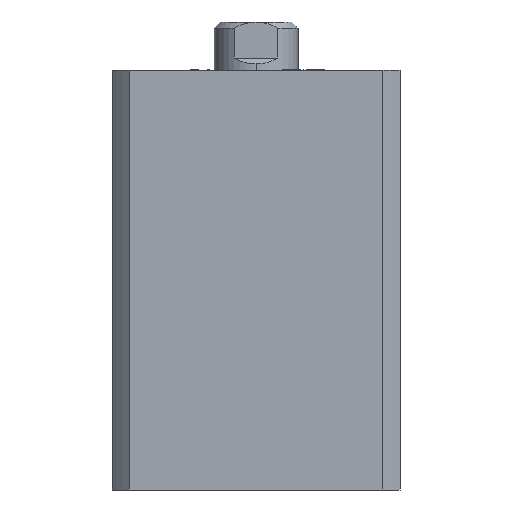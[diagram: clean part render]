
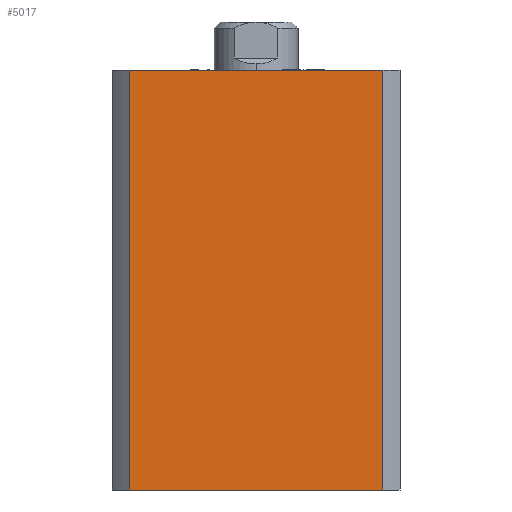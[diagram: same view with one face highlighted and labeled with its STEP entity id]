
A CAD part, left-side view. The second image highlights one B-rep face of the part: STEP entity #5017.
In plain terms, the highlighted planar face has unit normal (-1, 0, 0).
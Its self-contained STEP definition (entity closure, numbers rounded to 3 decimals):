
#310 = EDGE_LOOP ( 'NONE', ( #5061, #5062, #5063, #5064 ) ) ;
#516 = VERTEX_POINT ( 'NONE', #4410 ) ;
#535 = VERTEX_POINT ( 'NONE', #4363 ) ;
#539 = VERTEX_POINT ( 'NONE', #4357 ) ;
#631 = VERTEX_POINT ( 'NONE', #1994 ) ;
#672 = VECTOR ( 'NONE', #1965, 1000. ) ;
#673 = LINE ( 'NONE', #2000, #672 ) ;
#675 = VECTOR ( 'NONE', #2007, 1000. ) ;
#677 = LINE ( 'NONE', #2011, #675 ) ;
#1320 = CARTESIAN_POINT ( 'NONE',  ( -24., 0., 70. ) ) ;
#1325 = PLANE ( 'NONE',  #4808 ) ;
#1328 = DIRECTION ( 'NONE',  ( 1., 0., 0. ) ) ;
#1329 = DIRECTION ( 'NONE',  ( 0., 0., -1. ) ) ;
#1515 = EDGE_CURVE ( 'NONE', #539, #535, #673, .T. ) ;
#1516 = EDGE_CURVE ( 'NONE', #631, #516, #677, .T. ) ;
#1651 = FACE_OUTER_BOUND ( 'NONE', #310, .T. ) ;
#1965 = DIRECTION ( 'NONE',  ( 0., 0., -1. ) ) ;
#1994 = CARTESIAN_POINT ( 'NONE',  ( -24., 21.166, 70. ) ) ;
#2000 = CARTESIAN_POINT ( 'NONE',  ( -24., -21.166, 70. ) ) ;
#2007 = DIRECTION ( 'NONE',  ( 0., 0., -1. ) ) ;
#2011 = CARTESIAN_POINT ( 'NONE',  ( -24., 21.166, 70. ) ) ;
#2147 = EDGE_CURVE ( 'NONE', #631, #539, #2994, .T. ) ;
#2176 = EDGE_CURVE ( 'NONE', #516, #535, #3028, .T. ) ;
#2994 = LINE ( 'NONE', #4029, #2996 ) ;
#2996 = VECTOR ( 'NONE', #4030, 1000. ) ;
#3028 = LINE ( 'NONE', #4177, #3030 ) ;
#3030 = VECTOR ( 'NONE', #4178, 1000. ) ;
#4029 = CARTESIAN_POINT ( 'NONE',  ( -24., 0., 70. ) ) ;
#4030 = DIRECTION ( 'NONE',  ( 0., -1., 0. ) ) ;
#4177 = CARTESIAN_POINT ( 'NONE',  ( -24., 0., 0. ) ) ;
#4178 = DIRECTION ( 'NONE',  ( 0., -1., 0. ) ) ;
#4357 = CARTESIAN_POINT ( 'NONE',  ( -24., -21.166, 70. ) ) ;
#4363 = CARTESIAN_POINT ( 'NONE',  ( -24., -21.166, 0. ) ) ;
#4410 = CARTESIAN_POINT ( 'NONE',  ( -24., 21.166, 0. ) ) ;
#4808 = AXIS2_PLACEMENT_3D ( 'NONE', #1320, #1328, #1329 ) ;
#5017 = ADVANCED_FACE ( 'NONE', ( #1651 ), #1325, .F. ) ;
#5061 = ORIENTED_EDGE ( 'NONE', *, *, #2176, .T. ) ;
#5062 = ORIENTED_EDGE ( 'NONE', *, *, #1515, .F. ) ;
#5063 = ORIENTED_EDGE ( 'NONE', *, *, #2147, .F. ) ;
#5064 = ORIENTED_EDGE ( 'NONE', *, *, #1516, .T. ) ;
